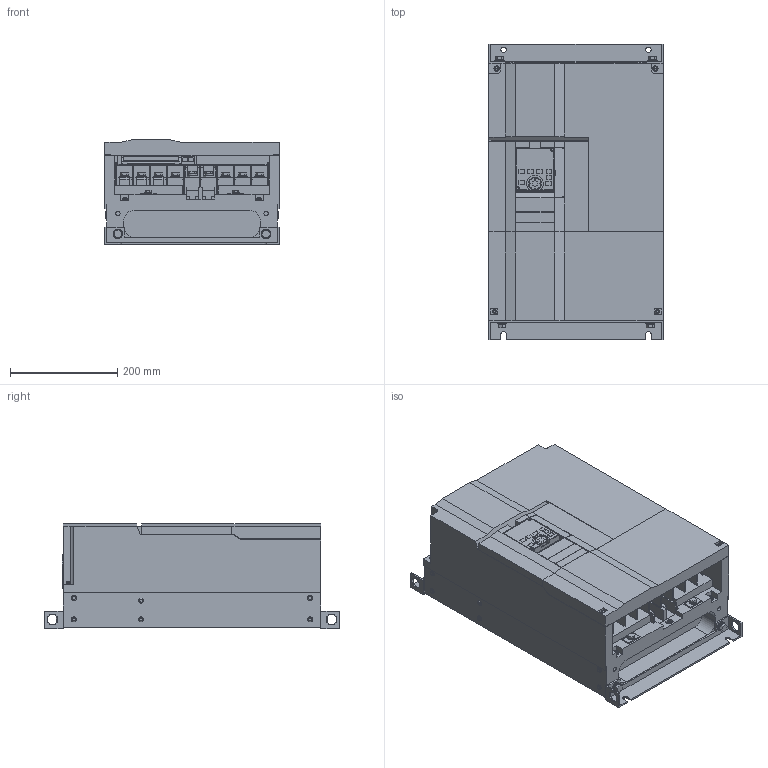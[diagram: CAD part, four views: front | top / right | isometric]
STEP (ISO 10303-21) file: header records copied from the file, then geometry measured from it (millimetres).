
FILE_DESCRIPTION((''),'2;1');
FILE_NAME('3D-INV-A8-01_09_ASM','2014-01-17T',('PZ79677'),(''),'PRO/ENGINEER BY PARAMETRIC TECHNOLOGY CORPORATION, 2011490','PRO/ENGINEER BY PARAMETRIC TECHNOLOGY CORPORATION, 2011490','');
FILE_SCHEMA(('CONFIG_CONTROL_DESIGN'));
Products named in the file (28): 3D-BASE-A8-01_09; 3D-WAKU-A8-01_09_ASM; 3D-ASHI_UPR-A8-01_09; 3D-BOLT-SW-PW-M8X20_; 3D-ASHI_UPR-BOLT-A8-01_09_ASM; 3D-ASHI_LOW-A8-01_09; 3D-ASHI_LOW-BOLT-A8-01_09_ASM; 3D-FAN-80; 3D-FAN_COV-A8-01_09; 3D-FAN_ASSY-A8-01_09_ASM; 3D-BOLT-SW-PW-P-M6X12_; 3D-TA-A8; 3D-A8-TA_ASM; 3D-TE_NEJI-M4X8_; 3D-TE_COV-R1S1_; 3D-TE_ASSY-A8-R1S1_ASM; 3D-SHORT-P_P1-A8-01_09; 3D-BOLT-SW-PW-P-M8X16_; 3D-TE_COV-01_09; 3D-TE_NEJI-A8-01_09_ASM; 3D-CA_COV-A8-01_09; 3D-DU_ASSY-A8; 3D-IF_COV-A80; 3D-SC-PN-BD-M4X10-BZN; 3D-CA_COV-A8-01_09_ASM; 3D-TE_COV-A8-01_09; 3D-TE_COV-A8-01_09_ASM; 3D-INV-A8-01_09_ASM
Assembly tree (47 placements, depth 3):
  3D-INV-A8-01_09_ASM
    3D-WAKU-A8-01_09_ASM
      3D-BASE-A8-01_09
    3D-ASHI_UPR-A8-01_09
    3D-ASHI_UPR-BOLT-A8-01_09_ASM
      3D-BOLT-SW-PW-M8X20_  x2
    3D-ASHI_LOW-A8-01_09
    3D-ASHI_LOW-BOLT-A8-01_09_ASM
      3D-BOLT-SW-PW-M8X20_  x2
    3D-FAN_ASSY-A8-01_09_ASM
      3D-FAN-80  x3
      3D-FAN_COV-A8-01_09
    3D-BOLT-SW-PW-P-M6X12_  x2
    3D-A8-TA_ASM
      3D-TA-A8
    3D-TE_ASSY-A8-R1S1_ASM
      3D-TE_NEJI-M4X8_  x4
      3D-TE_COV-R1S1_
    3D-TE_NEJI-A8-01_09_ASM
      3D-SHORT-P_P1-A8-01_09
      3D-BOLT-SW-PW-P-M8X16_  x9
      3D-TE_COV-01_09
    3D-CA_COV-A8-01_09_ASM
      3D-CA_COV-A8-01_09
      3D-DU_ASSY-A8
      3D-IF_COV-A80
      3D-SC-PN-BD-M4X10-BZN  x2
    3D-TE_COV-A8-01_09_ASM
      3D-TE_COV-A8-01_09
      3D-SC-PN-BD-M4X10-BZN  x2
Bounding box: 325 x 550 x 196 mm (x, y, z)
Volume: 23998866 mm3; surface area: 1517977.7 mm2
Topology: 39 solids, 52 shells, 3684 faces, 9523 edges, 5957 vertices
Faces by surface type: plane 2507, cylinder 879, torus 206, cone 48, sphere 44
Entity records: 114042 total; most frequent: CARTESIAN_POINT 33822, ORIENTED_EDGE 16886, DIRECTION 15857, EDGE_CURVE 8443, VECTOR 6253, LINE 6253, VERTEX_POINT 5322, AXIS2_PLACEMENT_3D 4802
